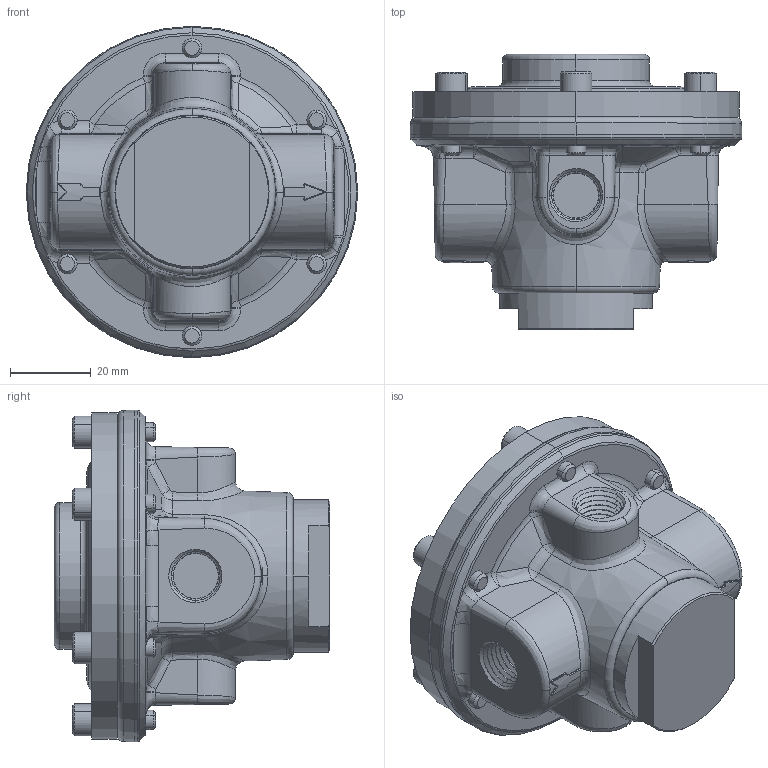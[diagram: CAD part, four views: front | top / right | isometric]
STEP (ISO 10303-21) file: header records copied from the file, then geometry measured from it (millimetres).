
FILE_DESCRIPTION (( 'STEP AP203' ), '1' );
FILE_NAME ('4GDR-250B-PO.STEP', '2013-03-13T19:36:39', ( '' ), ( '' ), 'SwSTEP 2.0', 'SolidWorks 2011', '' );
FILE_SCHEMA (( 'CONFIG_CONTROL_DESIGN' ));
Length unit declared in the file: inch
Products named in the file (2): 4GDR-250B-PO; Part2^4GDR-250B-PO
Assembly tree (1 placements, depth 2):
  4GDR-250B-PO
    Part2^4GDR-250B-PO
Bounding box: 82.3 x 68.38 x 82.3 mm (x, y, z)
Volume: 167861.6 mm3; surface area: 27534.8 mm2
Topology: 1 solids, 1 shells, 706 faces, 1546 edges, 848 vertices
Faces by surface type: cone 310, bspline 129, plane 121, cylinder 110, torus 27, sphere 9
Entity records: 23903 total; most frequent: CARTESIAN_POINT 9189, ORIENTED_EDGE 3062, DIRECTION 3020, EDGE_CURVE 1531, AXIS2_PLACEMENT_3D 1213, VERTEX_POINT 848, EDGE_LOOP 727, ADVANCED_FACE 706
